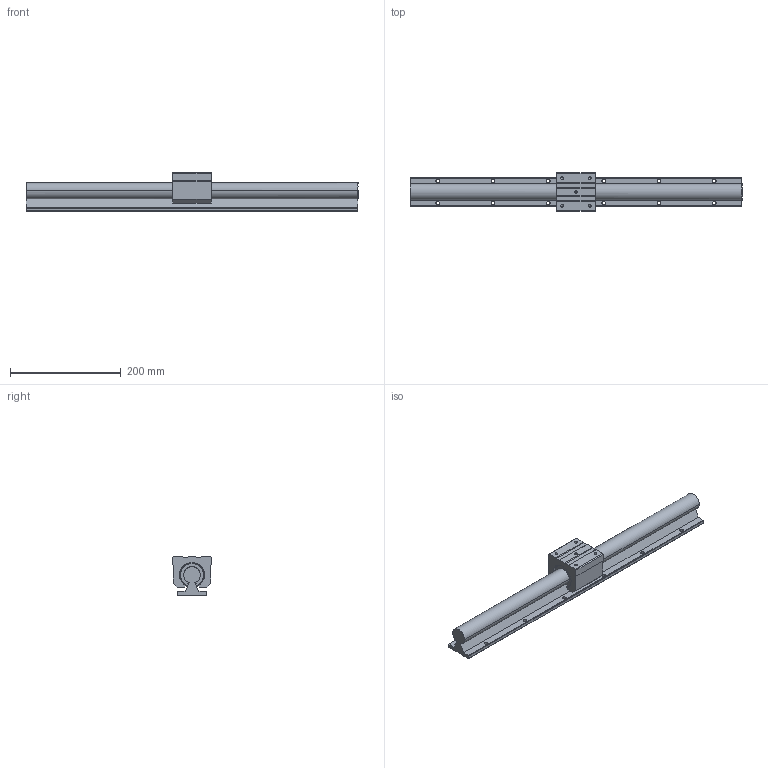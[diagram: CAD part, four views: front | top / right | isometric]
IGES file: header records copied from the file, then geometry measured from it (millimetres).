
Global section: file name: No Iges File Name specified; native system: AutoDesk Inventor R10; preprocessor: AutoDesk Inventor Iges Exporter R10; author: No Author specified; organization: No Organization specified; date: 20101221.091750; units: millimetre
Bounding box: 600 x 70 x 70 mm (x, y, z)
Surface area: 164135.6 mm2 (no closed solid volume)
Topology: 0 solids, 0 shells, 240 faces, 1616 edges, 1594 vertices
Faces by surface type: bspline 240
